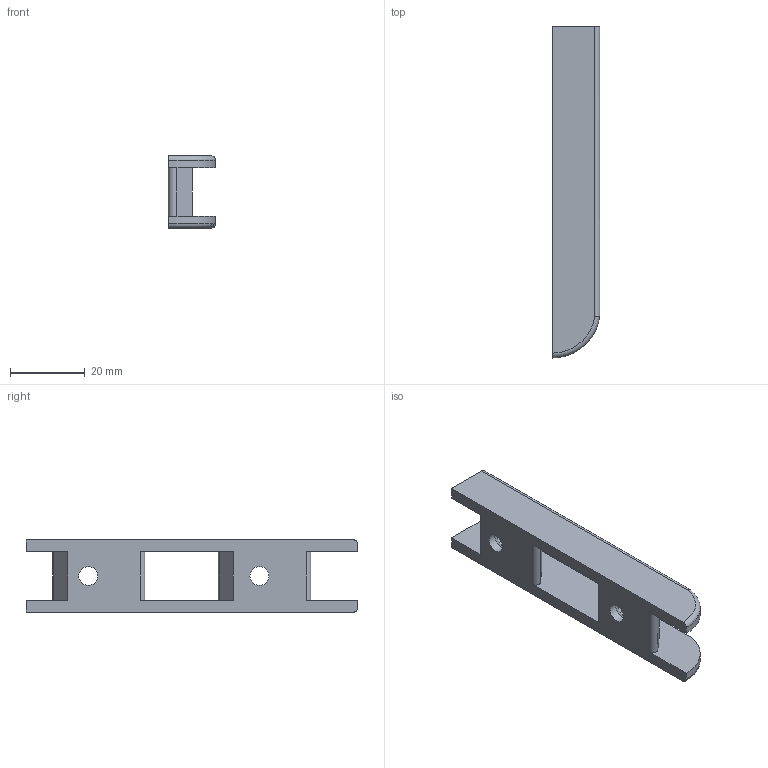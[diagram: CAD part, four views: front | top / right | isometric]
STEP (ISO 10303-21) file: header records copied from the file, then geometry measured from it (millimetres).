
FILE_DESCRIPTION(/* description */ ('STEP AP242','CAx-IF Rec.Pracs.---Representation and Presentation of Product Manufacturing Information (PMI)---4.0---2014-10-13','CAx-IF Rec.Pracs.---3D Tessellated Geometry---0.4---2014-09-14','2;1'),/* implementation_level */ '2;1');
FILE_NAME(/* name */ '677d7a70b77be45bfcd6c8ed',/* time_stamp */ '2025-01-07T19:03:12Z',/* author */ (''),/* organization */ (''),/* preprocessor_version */ 'ST-DEVELOPER v20',/* originating_system */ 'ONSHAPE BY PTC INC, 1.191',/* authorisation */ ' ');
FILE_SCHEMA (('AP242_MANAGED_MODEL_BASED_3D_ENGINEERING_MIM_LF { 1 0 10303 442 1 1 4 }'));
Length unit declared in the file: metre
Products named in the file (1): Wall Bracket-3.5
Bounding box: 12.7 x 88.9 x 19.37 mm (x, y, z)
Volume: 9740.4 mm3; surface area: 6602.5 mm2
Topology: 1 solids, 1 shells, 33 faces, 88 edges, 58 vertices
Faces by surface type: plane 17, cylinder 12, torus 2, cone 2
Full cylindrical faces by diameter (mm): 5.08 x2, 12.7 x2
Entity records: 1024 total; most frequent: CARTESIAN_POINT 178, DIRECTION 174, ORIENTED_EDGE 160, EDGE_CURVE 80, AXIS2_PLACEMENT_3D 62, VERTEX_POINT 56, LINE 50, VECTOR 50
